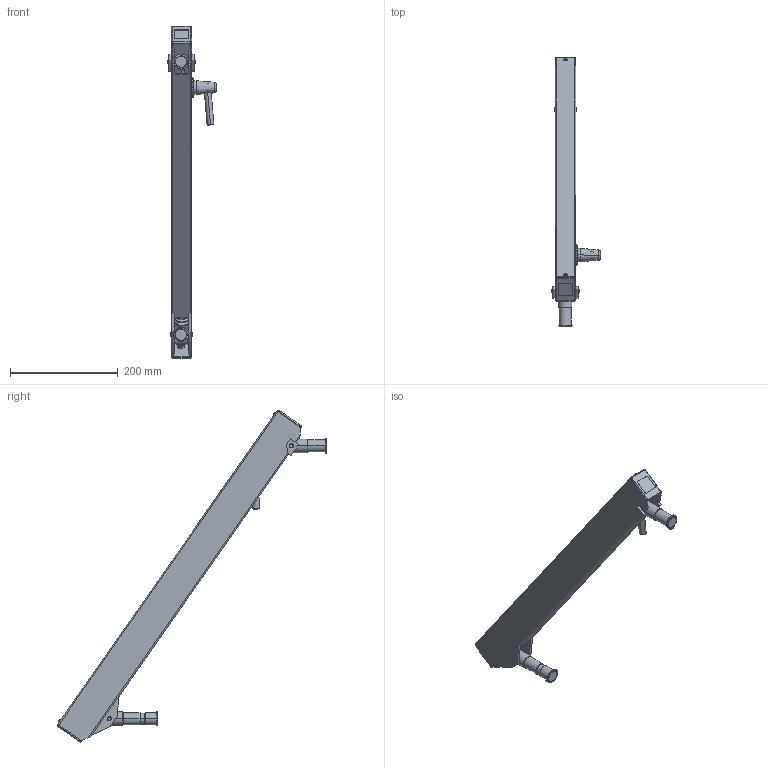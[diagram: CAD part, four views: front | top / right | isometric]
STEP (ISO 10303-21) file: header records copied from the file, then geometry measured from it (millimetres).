
FILE_DESCRIPTION (( 'STEP AP203' ), '1' );
FILE_NAME ('70-2424-00 REV AA, FLEX SECTION, 24in, 3-24 LB - DOWN.STEP', '2025-06-17T23:30:30', ( '' ), ( '' ), 'SwSTEP 2.0', 'SolidWorks 2025', '' );
FILE_SCHEMA (( 'CONFIG_CONTROL_DESIGN' ));
Length unit declared in the file: inch
Products named in the file (32): 016-070-00, BEARING, PLASTIC, .5ID x .625 OD x .75; 11-0650-00 REV AA, BRAKE HANDLE ASSEMBLY; 71-0070-RX REV AA, AXLE PIN, SHORT; 011-020-00 REV AA, PIN, KNURLED, 1.0LG x .25OD; 013-037-00, SPRING, GREEN, 1x12; 71-3032-RX REV AA, SPRING ROD, 24in FLEX; 71-3033-99 REV AA, BOLT, ADJUSTING, 15.250; 11-0027-RX REV AA, PLASTIC DISC, BRAKE ASSEMBLY_MACHINE; 006-004-00_006-004-00; 71-0029-RX REV AA, TAB, LOAD; 011-033-00; 002-041-00_002-041-00; 71-0071-RX REV AA, AXLE PIN, LONG; 004-144-00; 010-012-00, RETAINING RING, EXTERNAL, .875in SHAFT; 71-0972-99 REV AA, END CAP, FLEX; 71-0030-RX REV AA, KNUCKLE, LOAD_MACHINE; 010-011-00, RETAINING RING, EXT, .250 SHAFT_010-011-00; 71-2400-RX REV AA, HOUSING, 24in FLEX; 71-0037-RX REV AA, PIVOT, THREADED; 005-084-00, BOLT, 1''4-20x2.75; 71-0031-RX REV AA, KNUCKLE, MOUNT_MACHINE; 71-2401-BLKX REV AA, FLEX HOUSING, 24in, BLACK; 71-0039-RX REV AA, BRAKE BLOCK_MACHINE; 70-2424-00 REV AA,  FLEX SECTION, 24in, 3-24 LB - DOWN; 006-059-00; 11-0602-RX REV AA, HANDLE, BRAKE ASSEMBLY; 71-0028-RX REV AA, TAB, MOUNT_MACHINE; 11-0601-99 REV AA, CONICAL KNOB, BRAKE ASSEMBLY; 71-1051-RX REV AA, SPRING BLOCK; 004-050-00, WASHER, FIBER, .032 THK, .265ID; 71-0038-RX REV AA, PIVOT, KNUCKLE, ELECTROLESS NICKEL
Assembly tree (52 placements, depth 3):
  70-2424-00 REV AA,  FLEX SECTION, 24in, 3-24 LB - DOWN
    71-0031-RX REV AA, KNUCKLE, MOUNT_MACHINE
    71-1051-RX REV AA, SPRING BLOCK
    71-3032-RX REV AA, SPRING ROD, 24in FLEX
    71-0030-RX REV AA, KNUCKLE, LOAD_MACHINE
    71-0038-RX REV AA, PIVOT, KNUCKLE, ELECTROLESS NICKEL
    71-0037-RX REV AA, PIVOT, THREADED
    71-0039-RX REV AA, BRAKE BLOCK_MACHINE
    71-3033-99 REV AA, BOLT, ADJUSTING, 15.250
    71-2401-BLKX REV AA, FLEX HOUSING, 24in, BLACK
      71-2400-RX REV AA, HOUSING, 24in FLEX
      71-0029-RX REV AA, TAB, LOAD  x2
      71-0028-RX REV AA, TAB, MOUNT_MACHINE  x2
    71-0070-RX REV AA, AXLE PIN, SHORT
    71-0071-RX REV AA, AXLE PIN, LONG
    010-012-00, RETAINING RING, EXTERNAL, .875in SHAFT  x2
    71-0972-99 REV AA, END CAP, FLEX  x2
    11-0027-RX REV AA, PLASTIC DISC, BRAKE ASSEMBLY_MACHINE
    11-0650-00 REV AA, BRAKE HANDLE ASSEMBLY
      11-0601-99 REV AA, CONICAL KNOB, BRAKE ASSEMBLY
      11-0602-RX REV AA, HANDLE, BRAKE ASSEMBLY
      11-0027-RX REV AA, PLASTIC DISC, BRAKE ASSEMBLY_MACHINE
      005-084-00, BOLT, 1''4-20x2.75
    010-011-00, RETAINING RING, EXT, .250 SHAFT_010-011-00  x4
    016-070-00, BEARING, PLASTIC, .5ID x .625 OD x .75  x2
    004-050-00, WASHER, FIBER, .032 THK, .265ID  x8
    011-033-00
    011-020-00 REV AA, PIN, KNURLED, 1.0LG x .25OD  x2
    004-144-00  x3
    006-059-00
    013-037-00, SPRING, GREEN, 1x12
    006-004-00_006-004-00  x2
    002-041-00_002-041-00  x2
Bounding box: 91.63 x 502.17 x 617.51 mm (x, y, z)
Volume: 670405.5 mm3; surface area: 454405.1 mm2
Topology: 52 solids, 52 shells, 1063 faces, 2589 edges, 1630 vertices
Faces by surface type: cylinder 446, plane 365, cone 181, torus 45, bspline 20, sphere 6
Entity records: 53279 total; most frequent: CARTESIAN_POINT 32224, DIRECTION 3568, ORIENTED_EDGE 3566, EDGE_CURVE 1783, AXIS2_PLACEMENT_3D 1368, VERTEX_POINT 1122, LINE 832, VECTOR 832
